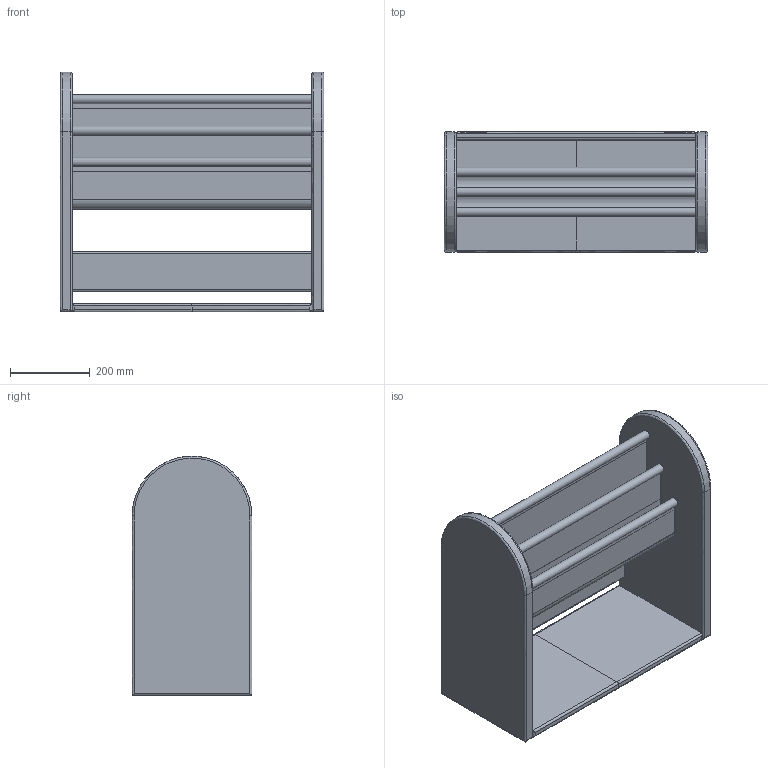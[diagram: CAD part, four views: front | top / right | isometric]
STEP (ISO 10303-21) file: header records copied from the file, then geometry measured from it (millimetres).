
FILE_DESCRIPTION(/* description */ (''),/* implementation_level */ '2;1');
FILE_NAME(/* name */ 'KINOSH~1',/* time_stamp */ '2021-12-02T15:43:55+09:00',/* author */ (''),/* organization */ (''),/* preprocessor_version */ 'ST-DEVELOPER v16.5',/* originating_system */ '',/* authorisation */ '');
FILE_SCHEMA (('AUTOMOTIVE_DESIGN'));
Length unit declared in the file: millimetre
Products named in the file (1): Document
Bounding box: 660 x 300 x 599.53 mm (x, y, z)
Volume: 13128783.8 mm3; surface area: 2602037.1 mm2
Topology: 7 solids, 10 shells, 117 faces, 279 edges, 180 vertices
Faces by surface type: bspline 83, plane 34
Entity records: 4149 total; most frequent: CARTESIAN_POINT 2491, ORIENTED_EDGE 500, EDGE_CURVE 281, VERTEX_POINT 180, ADVANCED_FACE 117, FACE_OUTER_BOUND 117, EDGE_LOOP 117, B_SPLINE_CURVE_WITH_KNOTS 106
